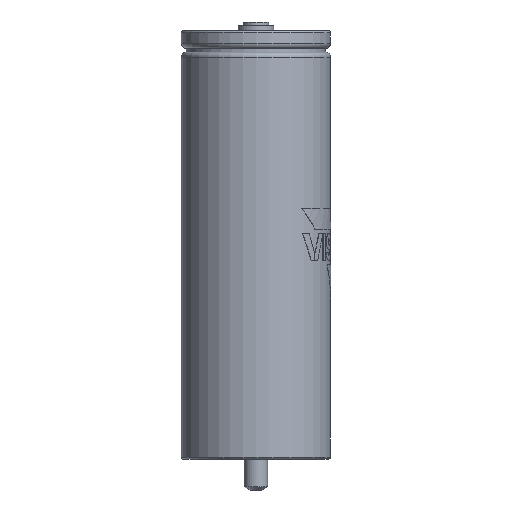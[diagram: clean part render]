
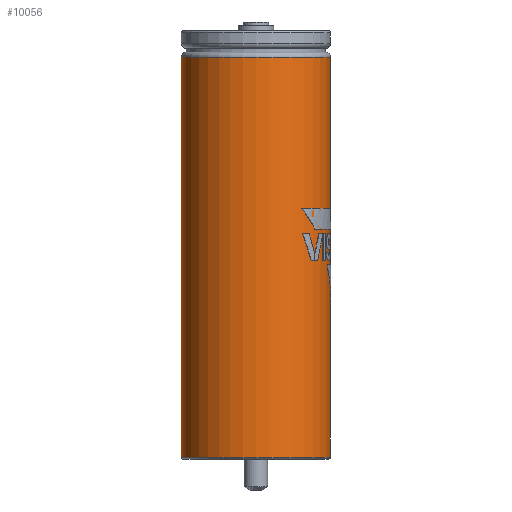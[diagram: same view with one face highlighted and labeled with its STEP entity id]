
A CAD part, left-side view. The second image highlights one B-rep face of the part: STEP entity #10056.
In plain terms, the highlighted cylindrical face has radius 38.2 mm (diameter 76.4 mm), a full revolution.
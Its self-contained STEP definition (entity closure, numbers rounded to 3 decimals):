
#9989 = TOROIDAL_SURFACE('',#9990,37.1,1.1);
#9990 = AXIS2_PLACEMENT_3D('',#9991,#9992,#9993);
#9991 = CARTESIAN_POINT('',(0.,0.,-217.6));
#9992 = DIRECTION('',(0.,0.,1.));
#9993 = DIRECTION('',(1.,0.,0.));
#10006 = VERTEX_POINT('',#10007);
#10007 = CARTESIAN_POINT('',(38.2,0.,-217.6));
#10029 = EDGE_CURVE('',#10006,#10006,#10030,.T.);
#10030 = SURFACE_CURVE('',#10031,(#10036,#10043),.PCURVE_S1.);
#10031 = CIRCLE('',#10032,38.2);
#10032 = AXIS2_PLACEMENT_3D('',#10033,#10034,#10035);
#10033 = CARTESIAN_POINT('',(0.,0.,-217.6));
#10034 = DIRECTION('',(0.,-0.,1.));
#10035 = DIRECTION('',(1.,0.,0.));
#10036 = PCURVE('',#9989,#10037);
#10037 = DEFINITIONAL_REPRESENTATION('',(#10038),#10042);
#10038 = LINE('',#10039,#10040);
#10039 = CARTESIAN_POINT('',(0.,6.283));
#10040 = VECTOR('',#10041,1.);
#10041 = DIRECTION('',(1.,0.));
#10042 = ( GEOMETRIC_REPRESENTATION_CONTEXT(2) 
PARAMETRIC_REPRESENTATION_CONTEXT() REPRESENTATION_CONTEXT('2D SPACE',''
  ) );
#10043 = PCURVE('',#10044,#10049);
#10044 = CYLINDRICAL_SURFACE('',#10045,38.2);
#10045 = AXIS2_PLACEMENT_3D('',#10046,#10047,#10048);
#10046 = CARTESIAN_POINT('',(0.,0.,-217.6));
#10047 = DIRECTION('',(0.,0.,1.));
#10048 = DIRECTION('',(1.,0.,0.));
#10049 = DEFINITIONAL_REPRESENTATION('',(#10050),#10054);
#10050 = LINE('',#10051,#10052);
#10051 = CARTESIAN_POINT('',(0.,0.));
#10052 = VECTOR('',#10053,1.);
#10053 = DIRECTION('',(1.,0.));
#10054 = ( GEOMETRIC_REPRESENTATION_CONTEXT(2) 
PARAMETRIC_REPRESENTATION_CONTEXT() REPRESENTATION_CONTEXT('2D SPACE',''
  ) );
#10056 = ADVANCED_FACE('',(#10057),#10044,.T.);
#10057 = FACE_BOUND('',#10058,.T.);
#10058 = EDGE_LOOP('',(#10059,#10060,#10083,#10110));
#10059 = ORIENTED_EDGE('',*,*,#10029,.T.);
#10060 = ORIENTED_EDGE('',*,*,#10061,.T.);
#10061 = EDGE_CURVE('',#10006,#10062,#10064,.T.);
#10062 = VERTEX_POINT('',#10063);
#10063 = CARTESIAN_POINT('',(38.2,0.,-12.5));
#10064 = SEAM_CURVE('',#10065,(#10069,#10076),.PCURVE_S1.);
#10065 = LINE('',#10066,#10067);
#10066 = CARTESIAN_POINT('',(38.2,0.,-217.6));
#10067 = VECTOR('',#10068,1.);
#10068 = DIRECTION('',(0.,0.,1.));
#10069 = PCURVE('',#10044,#10070);
#10070 = DEFINITIONAL_REPRESENTATION('',(#10071),#10075);
#10071 = LINE('',#10072,#10073);
#10072 = CARTESIAN_POINT('',(0.,0.));
#10073 = VECTOR('',#10074,1.);
#10074 = DIRECTION('',(0.,1.));
#10075 = ( GEOMETRIC_REPRESENTATION_CONTEXT(2) 
PARAMETRIC_REPRESENTATION_CONTEXT() REPRESENTATION_CONTEXT('2D SPACE',''
  ) );
#10076 = PCURVE('',#10044,#10077);
#10077 = DEFINITIONAL_REPRESENTATION('',(#10078),#10082);
#10078 = LINE('',#10079,#10080);
#10079 = CARTESIAN_POINT('',(6.283,0.));
#10080 = VECTOR('',#10081,1.);
#10081 = DIRECTION('',(0.,1.));
#10082 = ( GEOMETRIC_REPRESENTATION_CONTEXT(2) 
PARAMETRIC_REPRESENTATION_CONTEXT() REPRESENTATION_CONTEXT('2D SPACE',''
  ) );
#10083 = ORIENTED_EDGE('',*,*,#10084,.F.);
#10084 = EDGE_CURVE('',#10062,#10062,#10085,.T.);
#10085 = SURFACE_CURVE('',#10086,(#10091,#10098),.PCURVE_S1.);
#10086 = CIRCLE('',#10087,38.2);
#10087 = AXIS2_PLACEMENT_3D('',#10088,#10089,#10090);
#10088 = CARTESIAN_POINT('',(0.,0.,-12.5));
#10089 = DIRECTION('',(0.,-0.,1.));
#10090 = DIRECTION('',(1.,0.,0.));
#10091 = PCURVE('',#10044,#10092);
#10092 = DEFINITIONAL_REPRESENTATION('',(#10093),#10097);
#10093 = LINE('',#10094,#10095);
#10094 = CARTESIAN_POINT('',(0.,205.1));
#10095 = VECTOR('',#10096,1.);
#10096 = DIRECTION('',(1.,0.));
#10097 = ( GEOMETRIC_REPRESENTATION_CONTEXT(2) 
PARAMETRIC_REPRESENTATION_CONTEXT() REPRESENTATION_CONTEXT('2D SPACE',''
  ) );
#10098 = PCURVE('',#10099,#10104);
#10099 = TOROIDAL_SURFACE('',#10100,35.7,2.5);
#10100 = AXIS2_PLACEMENT_3D('',#10101,#10102,#10103);
#10101 = CARTESIAN_POINT('',(0.,0.,-12.5));
#10102 = DIRECTION('',(0.,0.,1.));
#10103 = DIRECTION('',(1.,0.,0.));
#10104 = DEFINITIONAL_REPRESENTATION('',(#10105),#10109);
#10105 = LINE('',#10106,#10107);
#10106 = CARTESIAN_POINT('',(0.,0.));
#10107 = VECTOR('',#10108,1.);
#10108 = DIRECTION('',(1.,0.));
#10109 = ( GEOMETRIC_REPRESENTATION_CONTEXT(2) 
PARAMETRIC_REPRESENTATION_CONTEXT() REPRESENTATION_CONTEXT('2D SPACE',''
  ) );
#10110 = ORIENTED_EDGE('',*,*,#10061,.F.);
